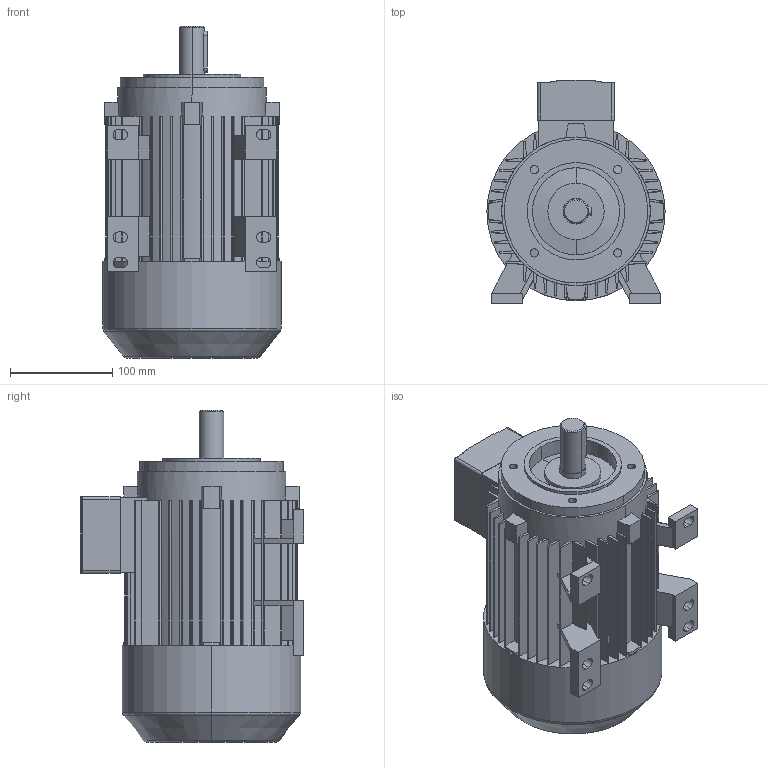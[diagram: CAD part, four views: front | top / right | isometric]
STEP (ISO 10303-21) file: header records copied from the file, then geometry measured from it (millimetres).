
FILE_DESCRIPTION((''),'2;1');
FILE_NAME('1LA7090-2AA17_PRT','2002-04-12T',('martin könig'),(''),'PRO/ENGINEER BY PARAMETRIC TECHNOLOGY CORPORATION, 2002030','PRO/ENGINEER BY PARAMETRIC TECHNOLOGY CORPORATION, 2002030','');
FILE_SCHEMA(('CONFIG_CONTROL_DESIGN'));
Length unit declared in the file: millimetre
Products named in the file (1): 1LA7090-2AA17_PRT
Bounding box: 174 x 218 x 324 mm (x, y, z)
Volume: 5599355.2 mm3; surface area: 365368.4 mm2
Topology: 1 solids, 1 shells, 379 faces, 1068 edges, 704 vertices
Faces by surface type: plane 251, cylinder 114, cone 10, torus 4
Entity records: 12419 total; most frequent: CARTESIAN_POINT 2270, ORIENTED_EDGE 2136, DIRECTION 2124, EDGE_CURVE 1068, VECTOR 750, LINE 750, VERTEX_POINT 704, AXIS2_PLACEMENT_3D 687
